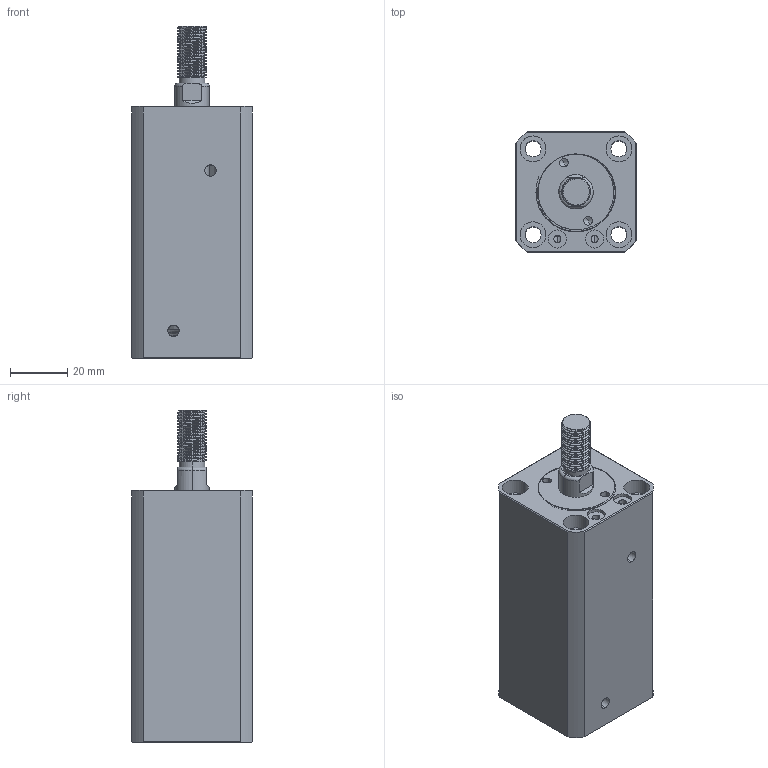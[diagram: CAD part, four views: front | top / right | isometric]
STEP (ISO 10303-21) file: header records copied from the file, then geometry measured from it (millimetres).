
FILE_DESCRIPTION (( 'STEP AP214' ), '1' );
FILE_NAME ('chtb-sdma20x45w_asm.STEP', '2018-05-18T04:17:48', ( 'Windows' ), ( 'Microsoft' ), 'SwSTEP 2.0', 'SolidWorks 2015', '' );
FILE_SCHEMA (( 'AUTOMOTIVE_DESIGN' ));
Length unit declared in the file: millimetre
Products named in the file (4): QG_3; CHTB-SDMA20X45WHSG; CHTB-SDMA20X45NBT; chtb-sdma20x45w_asm
Assembly tree (3 placements, depth 2):
  chtb-sdma20x45w_asm
    CHTB-SDMA20X45NBT
    CHTB-SDMA20X45WHSG
    QG_3
Bounding box: 42 x 42 x 116 mm (x, y, z)
Volume: 133306 mm3; surface area: 40346.6 mm2
Topology: 3 solids, 3 shells, 247 faces, 671 edges, 446 vertices
Faces by surface type: cylinder 144, plane 48, torus 25, bspline 23, cone 7
Entity records: 14895 total; most frequent: CARTESIAN_POINT 9018, ORIENTED_EDGE 1334, DIRECTION 1075, EDGE_CURVE 667, VERTEX_POINT 446, AXIS2_PLACEMENT_3D 441, EDGE_LOOP 285, FACE_OUTER_BOUND 247
